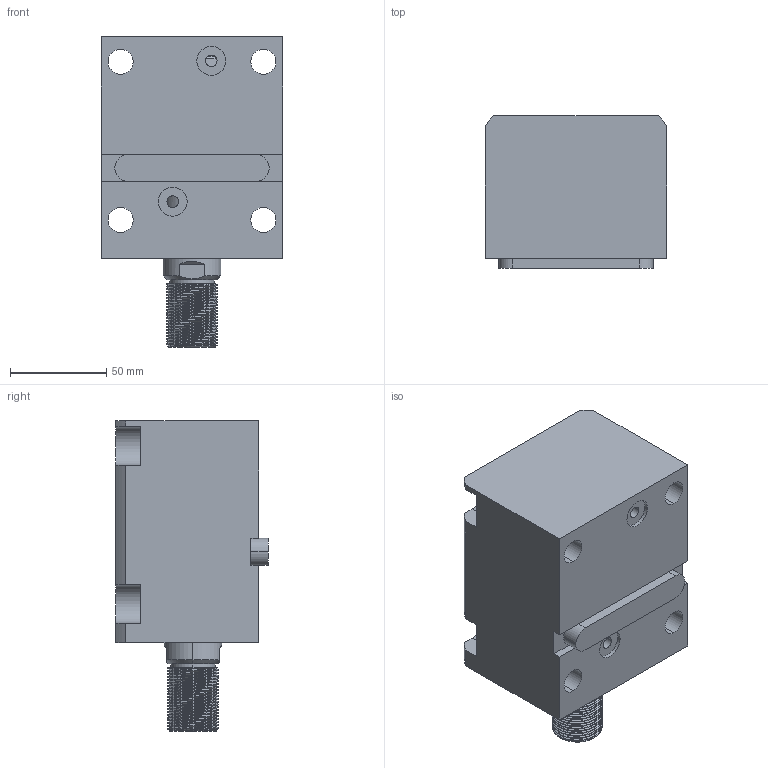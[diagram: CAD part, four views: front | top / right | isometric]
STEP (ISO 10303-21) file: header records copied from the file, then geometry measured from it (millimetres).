
FILE_DESCRIPTION (( 'STEP AP203' ), '1' );
FILE_NAME ('CHTB-LAM50-55W.STEP', '2018-05-23T10:41:17', ( '' ), ( '' ), 'SwSTEP 2.0', 'SolidWorks 2015', '' );
FILE_SCHEMA (( 'CONFIG_CONTROL_DESIGN' ));
Length unit declared in the file: millimetre
Products named in the file (4): CHTB-LAM50-55W; 掛极LAM50-55W; CHTM-SDMA50QG; 活塞杆LAM50-55W
Assembly tree (3 placements, depth 2):
  CHTB-LAM50-55W
    掛极LAM50-55W
    活塞杆LAM50-55W
    CHTM-SDMA50QG
Bounding box: 94 x 79 x 161 mm (x, y, z)
Volume: 702136.3 mm3; surface area: 118327.5 mm2
Topology: 3 solids, 3 shells, 234 faces, 652 edges, 436 vertices
Faces by surface type: cylinder 136, plane 53, bspline 16, torus 16, cone 13
Entity records: 14802 total; most frequent: CARTESIAN_POINT 8867, ORIENTED_EDGE 1296, DIRECTION 1023, EDGE_CURVE 648, VERTEX_POINT 436, AXIS2_PLACEMENT_3D 395, EDGE_LOOP 264, ADVANCED_FACE 234
